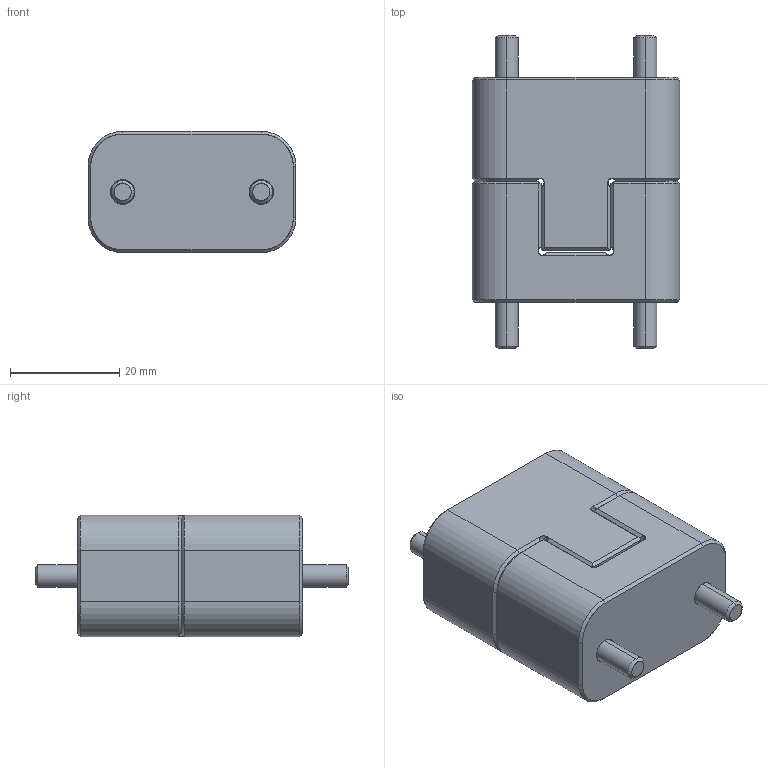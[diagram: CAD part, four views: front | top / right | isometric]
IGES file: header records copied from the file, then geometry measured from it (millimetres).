
Start section: SolidWorks IGES file using analytic representation for surfaces
Global section: file name: C:\Users\Ryan\Documents\PCS\Top Locks\R Series\TL-150R.igs; native system: SolidWorks 2009; preprocessor: SolidWorks 2009; author: Ryan; date: 150118.064620; units: inch
Bounding box: 38.1 x 57.48 x 22.23 mm (x, y, z)
Surface area: 12040 mm2 (no closed solid volume)
Topology: 0 solids, 0 shells, 182 faces, 2056 edges, 2056 vertices
Faces by surface type: bspline 110, revolution 72
